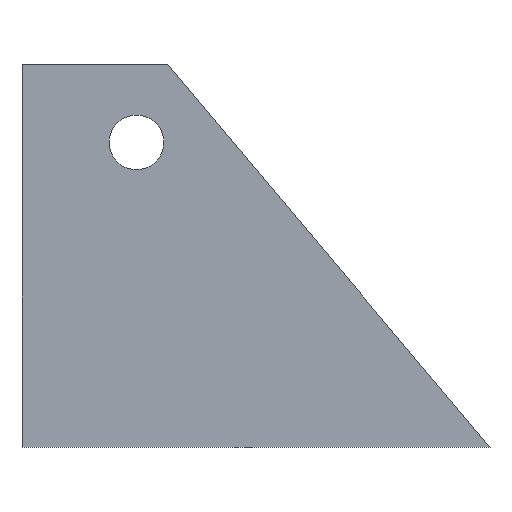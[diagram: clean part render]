
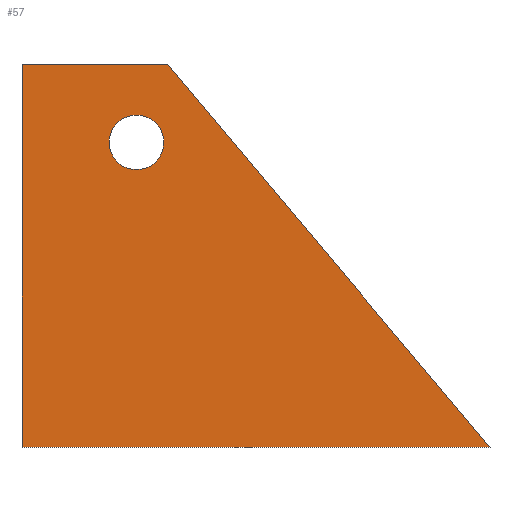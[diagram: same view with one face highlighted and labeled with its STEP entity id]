
A CAD part, top view. The second image highlights one B-rep face of the part: STEP entity #57.
In plain terms, the highlighted planar face has unit normal (0, 0, 1).
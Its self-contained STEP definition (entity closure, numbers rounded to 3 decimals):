
#57=ADVANCED_FACE('',(#73,#74),#75,.T.);
#73=FACE_BOUND('',#92,.T.);
#74=FACE_OUTER_BOUND('',#93,.T.);
#75=PLANE('',#94);
#92=EDGE_LOOP('',(#141,#142));
#93=EDGE_LOOP('',(#143,#144,#145,#146));
#94=AXIS2_PLACEMENT_3D('',#147,#148,#149);
#141=ORIENTED_EDGE('',*,*,#163,.T.);
#142=ORIENTED_EDGE('',*,*,#164,.T.);
#143=ORIENTED_EDGE('',*,*,#177,.F.);
#144=ORIENTED_EDGE('',*,*,#168,.F.);
#145=ORIENTED_EDGE('',*,*,#172,.F.);
#146=ORIENTED_EDGE('',*,*,#175,.F.);
#147=CARTESIAN_POINT('',(3.517,5.622,39.56));
#148=DIRECTION('',(0.0,0.0,1.0));
#149=DIRECTION('',(1.0,0.0,0.0));
#163=EDGE_CURVE('',#179,#183,#185,.T.);
#164=EDGE_CURVE('',#183,#179,#186,.T.);
#168=EDGE_CURVE('',#191,#193,#194,.T.);
#172=EDGE_CURVE('',#198,#191,#200,.T.);
#175=EDGE_CURVE('',#203,#198,#205,.T.);
#177=EDGE_CURVE('',#193,#203,#207,.T.);
#179=VERTEX_POINT('',#209);
#183=VERTEX_POINT('',#214);
#185=CIRCLE('',#217,0.75);
#186=CIRCLE('',#218,0.75);
#191=VERTEX_POINT('',#224);
#193=VERTEX_POINT('',#227);
#194=LINE('',#228,#229);
#198=VERTEX_POINT('',#235);
#200=LINE('',#238,#239);
#203=VERTEX_POINT('',#243);
#205=LINE('',#246,#247);
#207=LINE('',#250,#251);
#209=CARTESIAN_POINT('',(2.391,9.868,39.56));
#214=CARTESIAN_POINT('',(0.891,9.868,39.56));
#217=AXIS2_PLACEMENT_3D('',#257,#258,#259);
#218=AXIS2_PLACEMENT_3D('',#260,#261,#262);
#224=CARTESIAN_POINT('',(-1.5,12.001,39.56));
#227=CARTESIAN_POINT('',(2.5,12.001,39.56));
#228=CARTESIAN_POINT('',(-1.5,12.001,39.56));
#229=VECTOR('',#268,1.0);
#235=CARTESIAN_POINT('',(-1.5,1.503,39.56));
#238=CARTESIAN_POINT('',(-1.5,1.503,39.56));
#239=VECTOR('',#272,1.0);
#243=CARTESIAN_POINT('',(11.342,1.503,39.56));
#246=CARTESIAN_POINT('',(11.342,1.503,39.56));
#247=VECTOR('',#275,1.0);
#250=CARTESIAN_POINT('',(2.5,12.001,39.56));
#251=VECTOR('',#277,1.);
#257=CARTESIAN_POINT('',(1.641,9.868,39.56));
#258=DIRECTION('',(0.0,0.0,-1.0));
#259=DIRECTION('',(1.0,0.0,0.0));
#260=CARTESIAN_POINT('',(1.641,9.868,39.56));
#261=DIRECTION('',(0.0,0.0,-1.0));
#262=DIRECTION('',(1.0,0.0,0.0));
#268=DIRECTION('',(1.0,0.0,0.0));
#272=DIRECTION('',(0.0,1.0,0.0));
#275=DIRECTION('',(-1.0,0.,0.0));
#277=DIRECTION('',(0.644,-0.765,0.0));
